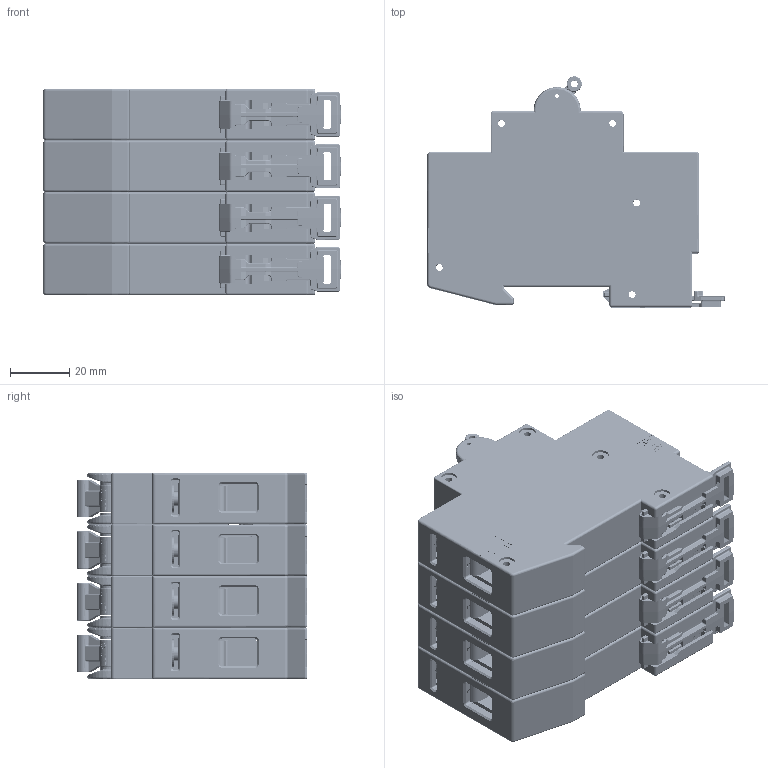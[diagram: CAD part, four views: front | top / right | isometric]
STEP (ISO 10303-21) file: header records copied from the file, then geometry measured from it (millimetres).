
FILE_DESCRIPTION((''),'2;1');
FILE_NAME('2012-3P_WRP','2009-02-09T',('jianzhuanlin'),(''),'PRO/ENGINEER BY PARAMETRIC TECHNOLOGY CORPORATION, 2008010','PRO/ENGINEER BY PARAMETRIC TECHNOLOGY CORPORATION, 2008010','');
FILE_SCHEMA(('CONFIG_CONTROL_DESIGN'));
Products named in the file (1): 2012-3P_WRP
Bounding box: 100.66 x 78.17 x 69.9 mm (x, y, z)
Surface area: 133272.1 mm2 (no closed solid volume)
Topology: 0 solids, 186 shells, 8001 faces, 25332 edges, 17270 vertices
Faces by surface type: plane 4443, cylinder 2390, bspline 428, torus 382, cone 196, sphere 150, extrusion 12
Entity records: 300853 total; most frequent: CARTESIAN_POINT 81891, ORIENTED_EDGE 44354, DIRECTION 43442, EDGE_CURVE 25332, VECTOR 17668, LINE 17656, VERTEX_POINT 17270, AXIS2_PLACEMENT_3D 12887
